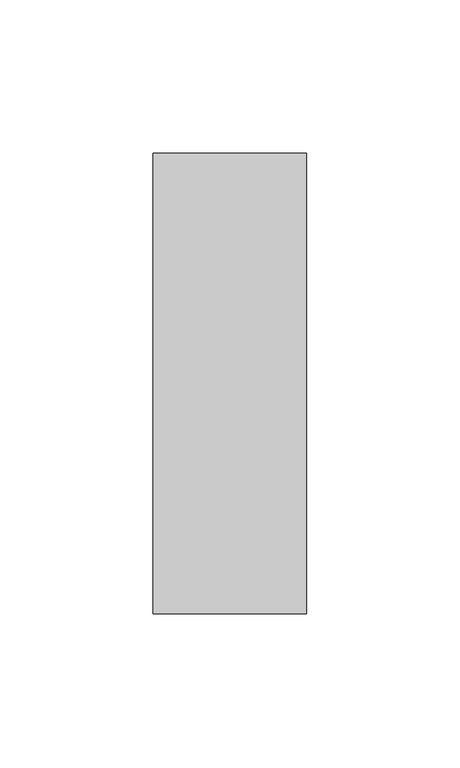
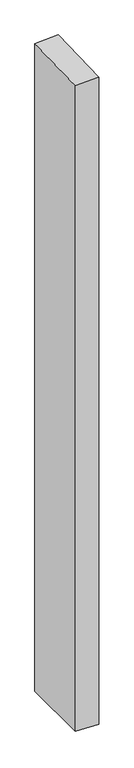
"""IFC4 building model written with IfcOpenShell, lengths in millimetres: member geometry, Прямоугольный импост : 50 x 150 мм."""

from ifc_helpers import new_model, si_unit, origin, place, context, project, spatial, faceted_brep, source, transform, mapped, element, save


def member_1272c539(model_context):
    return source(origin(), model_context, "Body", "Brep", [
        faceted_brep([(-25.0, 75.0, 1.0429903), (25.0, 75.0, 3.3926997), (25.0, 75.0, -1464.4120684), (-25.0, 75.0, -1462.4447896), (-25.0, -75.0, -3.3926997), (-25.0, -75.0, -1460.9430891), (25.0, -75.0, -1.0429903), (25.0, -75.0, -1462.9103678)], [[[0, 1, 2, 3]], [[4, 0, 3, 5]], [[6, 4, 5, 7]], [[1, 6, 7, 2]], [[1, 0, 4, 6]], [[2, 7, 5, 3]]]),
    ])


if __name__ == "__main__":
    model = new_model("IFC4")
    model_context = context("Model", 3, world=origin())
    ifc_project = project(units=[si_unit("LENGTHUNIT", "METRE", prefix="MILLI")], contexts=[model_context])
    site = spatial("IfcSite", under=ifc_project)
    building = spatial("IfcBuilding", under=site)
    placement = place(None, origin())
    member_shape = member_1272c539(model_context)
    element("IfcMember", 1, ObjectType="Прямоугольный импост : 50 x 150 мм", at=placement, inside=building, context=model_context, shape_type="MappedRepresentation", body=[
        mapped(member_shape, transform((0.0, 0.0, 0.0), x_axis=(1.0, 0.0, 0.0), y_axis=(0.0, 1.0, 0.0), z_axis=(0.0, 0.0, 1.0))),
    ])
    save(model, "model.ifc")
